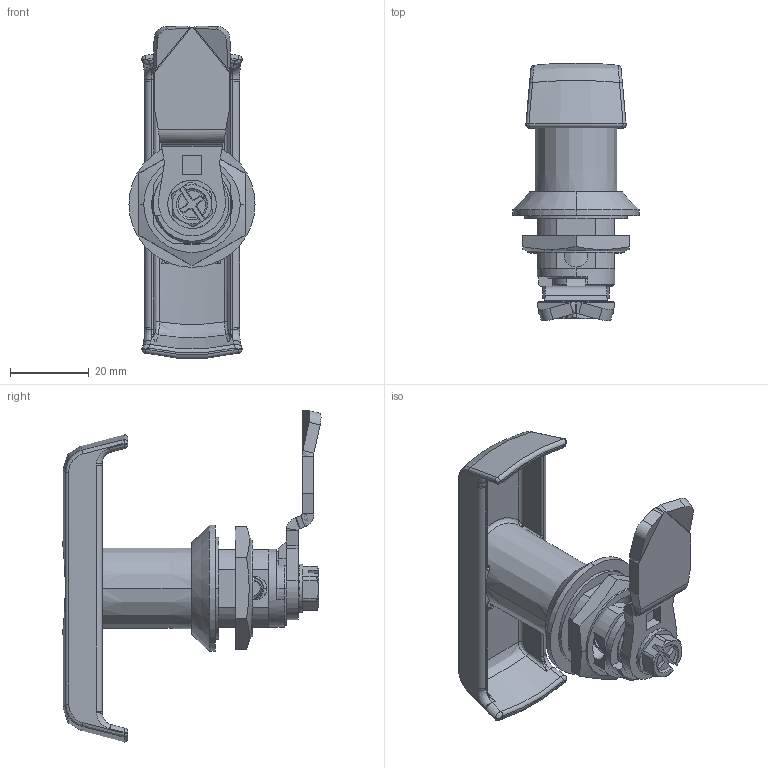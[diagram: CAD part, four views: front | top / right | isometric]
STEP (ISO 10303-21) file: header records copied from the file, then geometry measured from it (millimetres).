
FILE_DESCRIPTION (( 'STEP AP203' ), '1' );
FILE_NAME ('2.T18.101(2).STEP', '2022-02-12T09:09:15', ( '' ), ( '' ), 'SwSTEP 2.0', 'SolidWorks 2021', '' );
FILE_SCHEMA (( 'CONFIG_CONTROL_DESIGN' ));
Length unit declared in the file: millimetre
Products named in the file (13): 2.IP65.003_A; 2.T18.001.01_A; 2.NKR_M22 - A; DIN 3771_13x3,5; P.015227_00-00; 2.B.012_1333; P.002398_00-00; DIN 7343_2x10; 2.T18.101(2); P.002400_03-00; DIN 3771_9.1x1.6; S6PZ_M6x8; 1C.J-1XX.H.L_#3, 1.75.22.45
Assembly tree (12 placements, depth 2):
  2.T18.101(2)
    P.015227_00-00
    2.B.012_1333
    DIN 3771_9.1x1.6
    P.002400_03-00
    DIN 7343_2x10
    2.T18.001.01_A
    1C.J-1XX.H.L_#3, 1.75.22.45
    DIN 3771_13x3,5
    P.002398_00-00
    S6PZ_M6x8
    2.IP65.003_A
    2.NKR_M22 - A
Bounding box: 32 x 65.52 x 84.31 mm (x, y, z)
Volume: 29547.1 mm3; surface area: 25781.2 mm2
Topology: 12 solids, 12 shells, 877 faces, 2280 edges, 1423 vertices
Faces by surface type: plane 390, bspline 181, cylinder 155, cone 93, torus 54, sphere 4
Entity records: 37070 total; most frequent: CARTESIAN_POINT 15860, ORIENTED_EDGE 4536, DIRECTION 3647, EDGE_CURVE 2268, VERTEX_POINT 1423, AXIS2_PLACEMENT_3D 1351, LINE 945, VECTOR 945
